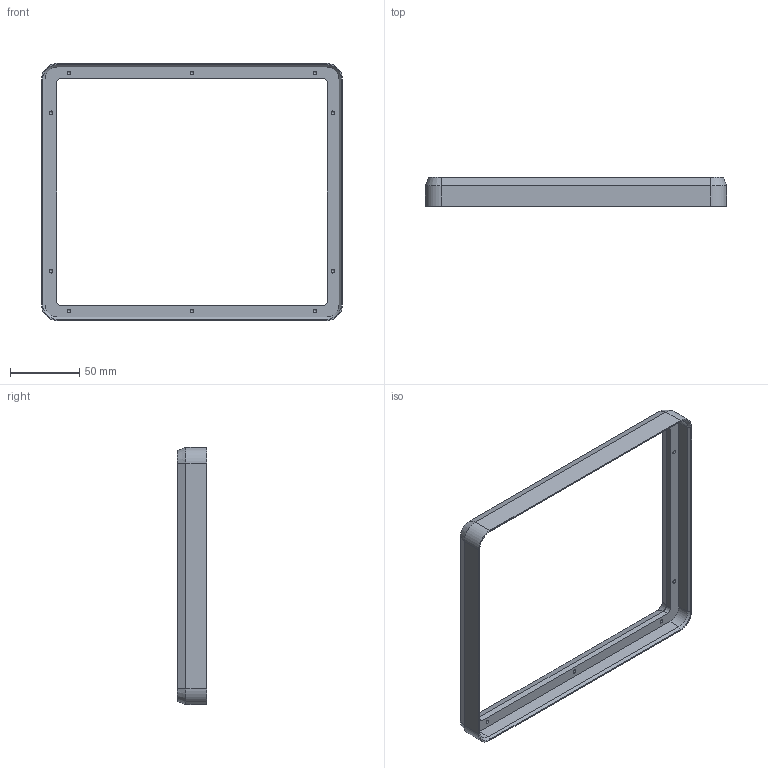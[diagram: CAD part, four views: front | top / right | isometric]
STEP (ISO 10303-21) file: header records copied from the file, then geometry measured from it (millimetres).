
FILE_DESCRIPTION(/* description */ ('','CAx-IF Rec.Pracs.---Representation and Presentation of Product Manufacturing Information (PMI)---3.8---2014-02-18'),/* implementation_level */ '2;1');
FILE_NAME(/* name */ '\\desg01fs05\redir\radams\Desktop\3D PRINT\CAD Models\BSW\EICO FACE PLATE PROD.stp',/* time_stamp */ '2026-06-16T07:29:08-04:00',/* author */ ('radams'),/* organization */ (''),/* preprocessor_version */ 'ST-DEVELOPER v16.5',/* originating_system */ 'Autodesk Inventor 2017',/* authorisation */ '');
FILE_SCHEMA (('AP242_MANAGED_MODEL_BASED_3D_ENGINEERING_MIM_LF { 1 0 10303 442 1 1 4 }'));
Length unit declared in the file: inch
Products named in the file (1): EICO FACE PLATE
Bounding box: 217.49 x 21.08 x 185.74 mm (x, y, z)
Volume: 94406.7 mm3; surface area: 45642.1 mm2
Topology: 1 solids, 1 shells, 71 faces, 170 edges, 102 vertices
Faces by surface type: plane 27, cone 22, cylinder 22
Full cylindrical faces by diameter (mm): 2.718 x10
Entity records: 1874 total; most frequent: DIRECTION 340, CARTESIAN_POINT 304, ORIENTED_EDGE 280, EDGE_CURVE 140, AXIS2_PLACEMENT_3D 128, EDGE_LOOP 94, VERTEX_POINT 92, LINE 84
